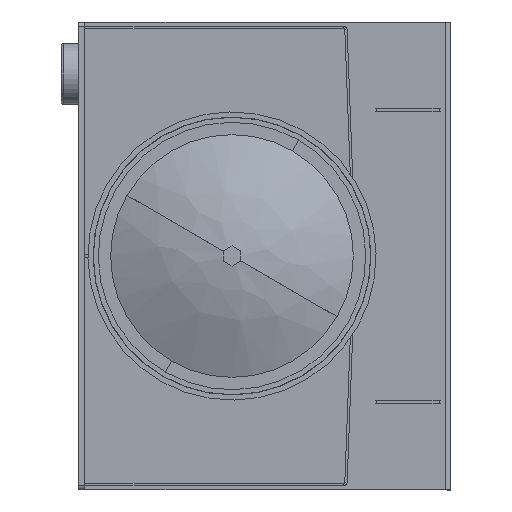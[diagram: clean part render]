
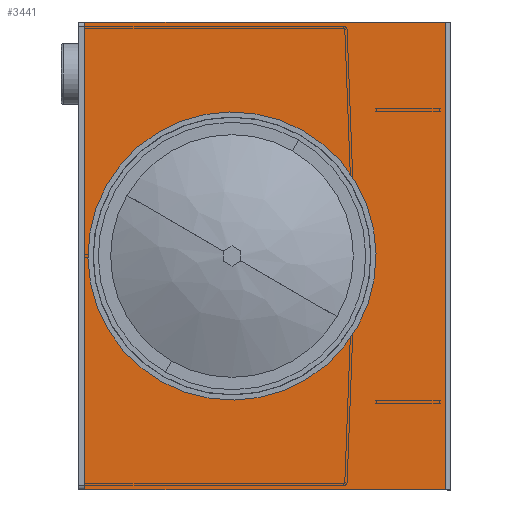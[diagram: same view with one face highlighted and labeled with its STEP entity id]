
A CAD part, left-side view. The second image highlights one B-rep face of the part: STEP entity #3441.
In plain terms, the highlighted planar face has unit normal (-1, 0, 0) as drawn and (1, 0, 0) by its records, which use the part's own axes.
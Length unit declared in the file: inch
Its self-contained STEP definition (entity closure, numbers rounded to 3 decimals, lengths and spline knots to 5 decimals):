
#52 = CARTESIAN_POINT ( 'NONE',  ( 0., 10.5625, 13.5 ) ) ;
#233 = CARTESIAN_POINT ( 'NONE',  ( 0., 2.072, 0. ) ) ;
#324 = VERTEX_POINT ( 'NONE', #3594 ) ;
#645 = CARTESIAN_POINT ( 'NONE',  ( 0., -10.25, -13.5 ) ) ;
#1294 = ORIENTED_EDGE ( 'NONE', *, *, #5126, .T. ) ;
#1343 = DIRECTION ( 'NONE',  ( 0., 0., 1. ) ) ;
#1464 = VERTEX_POINT ( 'NONE', #4543 ) ;
#2166 = CARTESIAN_POINT ( 'NONE',  ( 0., -10.25, 13.5 ) ) ;
#2221 = LINE ( 'NONE', #2694, #2433 ) ;
#2324 = DIRECTION ( 'NONE',  ( 0., 0., -1. ) ) ;
#2339 = FACE_OUTER_BOUND ( 'NONE', #7419, .T. ) ;
#2355 = EDGE_CURVE ( 'NONE', #5285, #4069, #8202, .T. ) ;
#2433 = VECTOR ( 'NONE', #5478, 39.37008 ) ;
#2562 = CARTESIAN_POINT ( 'NONE',  ( 0., 2.072, -7. ) ) ;
#2638 = DIRECTION ( 'NONE',  ( 0., 0., -1. ) ) ;
#2694 = CARTESIAN_POINT ( 'NONE',  ( 0., -10.5625, 13.5 ) ) ;
#2801 = EDGE_CURVE ( 'NONE', #6074, #1464, #4747, .T. ) ;
#2963 = CARTESIAN_POINT ( 'NONE',  ( 0., 0., 0. ) ) ;
#3107 = EDGE_CURVE ( 'NONE', #1464, #6074, #6004, .T. ) ;
#3441 = ADVANCED_FACE ( 'NONE', ( #7043, #2339 ), #4133, .F. ) ;
#3558 = VERTEX_POINT ( 'NONE', #52 ) ;
#3573 = VECTOR ( 'NONE', #8645, 39.37008 ) ;
#3594 = CARTESIAN_POINT ( 'NONE',  ( 0., 10.5625, -13.5 ) ) ;
#3664 = DIRECTION ( 'NONE',  ( 0., 0., 1. ) ) ;
#3844 = EDGE_LOOP ( 'NONE', ( #6685, #5043 ) ) ;
#4069 = VERTEX_POINT ( 'NONE', #645 ) ;
#4133 = PLANE ( 'NONE',  #6435 ) ;
#4332 = ORIENTED_EDGE ( 'NONE', *, *, #8297, .T. ) ;
#4543 = CARTESIAN_POINT ( 'NONE',  ( 0., 2.072, 7. ) ) ;
#4646 = ORIENTED_EDGE ( 'NONE', *, *, #8533, .T. ) ;
#4747 = CIRCLE ( 'NONE', #8624, 7. ) ;
#4812 = VECTOR ( 'NONE', #3664, 39.37008 ) ;
#5043 = ORIENTED_EDGE ( 'NONE', *, *, #3107, .F. ) ;
#5126 = EDGE_CURVE ( 'NONE', #4069, #324, #5411, .T. ) ;
#5149 = CARTESIAN_POINT ( 'NONE',  ( 0., 2.072, 0. ) ) ;
#5285 = VERTEX_POINT ( 'NONE', #7027 ) ;
#5411 = LINE ( 'NONE', #7948, #3573 ) ;
#5478 = DIRECTION ( 'NONE',  ( 0., -1., 0. ) ) ;
#6004 = CIRCLE ( 'NONE', #6916, 7. ) ;
#6074 = VERTEX_POINT ( 'NONE', #2562 ) ;
#6315 = VECTOR ( 'NONE', #2638, 39.37008 ) ;
#6435 = AXIS2_PLACEMENT_3D ( 'NONE', #2963, #9025, #1343 ) ;
#6451 = CARTESIAN_POINT ( 'NONE',  ( 0., 10.5625, 13.5 ) ) ;
#6494 = DIRECTION ( 'NONE',  ( 0., 0., -1. ) ) ;
#6580 = DIRECTION ( 'NONE',  ( 1., 0., 0. ) ) ;
#6617 = ORIENTED_EDGE ( 'NONE', *, *, #2355, .T. ) ;
#6685 = ORIENTED_EDGE ( 'NONE', *, *, #2801, .F. ) ;
#6916 = AXIS2_PLACEMENT_3D ( 'NONE', #233, #7941, #2324 ) ;
#7027 = CARTESIAN_POINT ( 'NONE',  ( 0., -10.25, 13.5 ) ) ;
#7043 = FACE_BOUND ( 'NONE', #3844, .T. ) ;
#7419 = EDGE_LOOP ( 'NONE', ( #6617, #1294, #4332, #4646 ) ) ;
#7941 = DIRECTION ( 'NONE',  ( 1., 0., 0. ) ) ;
#7948 = CARTESIAN_POINT ( 'NONE',  ( 0., -10.5625, -13.5 ) ) ;
#8202 = LINE ( 'NONE', #2166, #6315 ) ;
#8297 = EDGE_CURVE ( 'NONE', #324, #3558, #8596, .T. ) ;
#8533 = EDGE_CURVE ( 'NONE', #3558, #5285, #2221, .T. ) ;
#8596 = LINE ( 'NONE', #6451, #4812 ) ;
#8624 = AXIS2_PLACEMENT_3D ( 'NONE', #5149, #6580, #6494 ) ;
#8645 = DIRECTION ( 'NONE',  ( 0., 1., 0. ) ) ;
#9025 = DIRECTION ( 'NONE',  ( -1., 0., 0. ) ) ;
